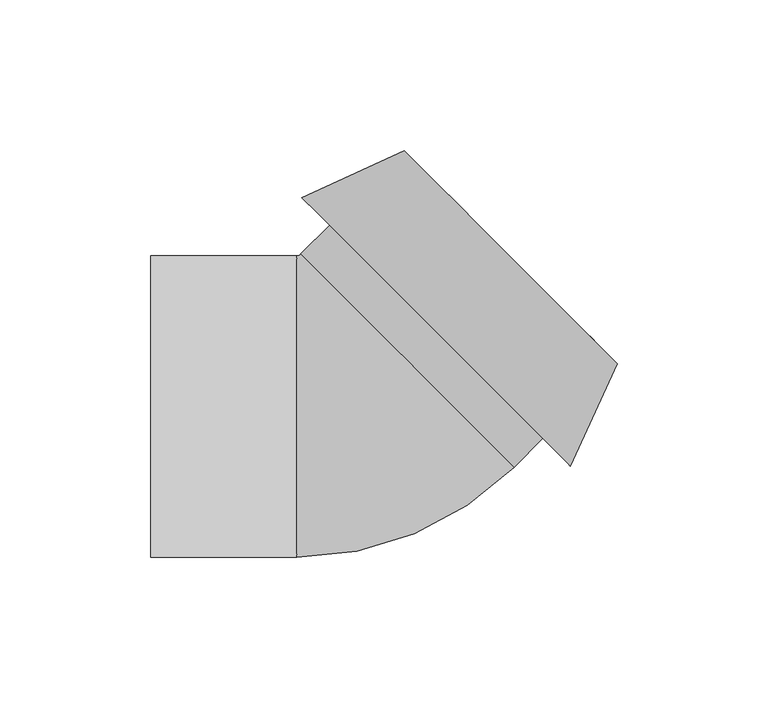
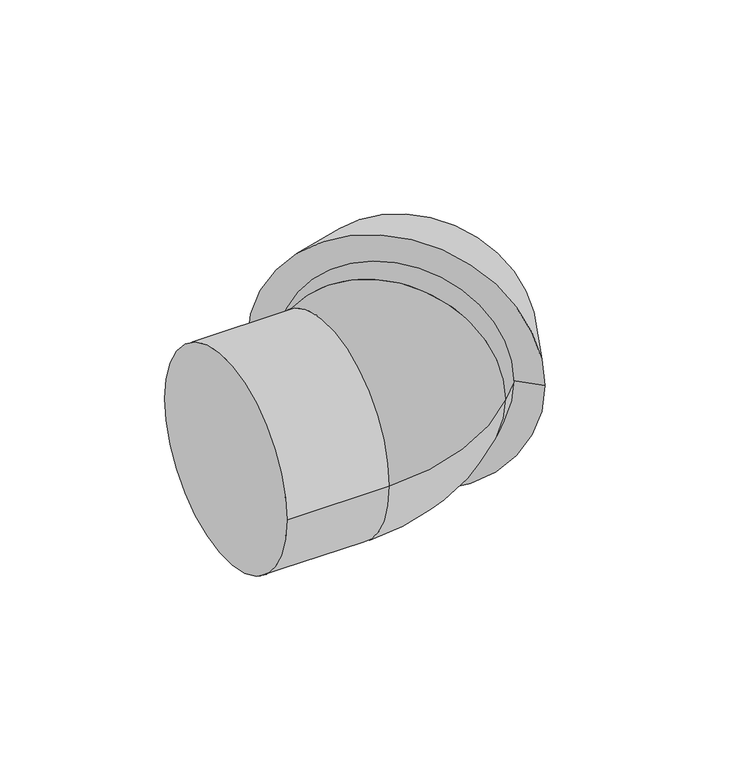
"""IFC4 building model written with IfcOpenShell, lengths in millimetres: duct fitting geometry, NLRS_57_DUF_Easysafe_bocht_M&G : DN100 / 45°."""

import ifcopenshell
import ifcopenshell.guid

model = None  # the IFC model being written
_history = None  # IfcOwnerHistory: only IFC2X3 demands one
_inside = {}  # id of a spatial element -> (the spatial element, [elements in it])
_under = {}  # id of a project, library or spatial element -> (it, [spatial elements below it])
_declared = {}  # id of a project -> (the project, [libraries it declares])
_typed = {}  # id of a type object -> (the type object, [elements of that type])
_made_of = {}  # id of a material, layer set ... -> (it, [elements and type objects made of it])


def new_model(schema):
    """Start an empty IFC model of exactly this schema.

    Asked for "IFC4X3", IfcOpenShell would pick the latest addendum, in which some entities
    have other attributes; the version numbers below select the first issue.
    IFC2X3 requires an IfcOwnerHistory on every rooted entity: one is made here for all.
    """
    global model, _history
    if schema == "IFC4X3":
        model = ifcopenshell.file(schema_version=(4, 3, 0, 0))
    else:
        model = ifcopenshell.file(schema=schema)
    _inside.clear()
    _under.clear()
    _declared.clear()
    _typed.clear()
    _made_of.clear()
    _history = None
    if model.schema == "IFC2X3":
        org = make("IfcOrganization", Name="unknown")
        user = make(
            "IfcPersonAndOrganization",
            ThePerson=make("IfcPerson", FamilyName="unknown"),
            TheOrganization=org,
        )
        app = make(
            "IfcApplication",
            ApplicationDeveloper=org,
            Version="unknown",
            ApplicationFullName="unknown",
            ApplicationIdentifier="unknown",
        )
        _history = make(
            "IfcOwnerHistory",
            OwningUser=user,
            OwningApplication=app,
            ChangeAction="ADDED",
            CreationDate=0,
        )
    return model


def make(cls, **values):
    """One entity of the class cls with the attributes given. An attribute that is None is left unset."""
    return model.create_entity(
        cls, **{name: value for name, value in values.items() if value is not None}
    )


def rooted(cls, **values):
    """An entity with a GlobalId (a new one), such as an element, a storey or a relation."""
    return make(cls, GlobalId=ifcopenshell.guid.new(), OwnerHistory=_history, **values)


def si_unit(unit_type, name, prefix=None):
    """IfcSIUnit, for example si_unit("LENGTHUNIT", "METRE", prefix="MILLI")."""
    return make("IfcSIUnit", UnitType=unit_type, Prefix=prefix, Name=name)


def assignment(units):
    """IfcUnitAssignment: the units of a project."""
    return None if units is None else make("IfcUnitAssignment", Units=units)


def point(xyz):
    """IfcCartesianPoint."""
    return None if xyz is None else make("IfcCartesianPoint", Coordinates=xyz)


def direction(xyz):
    """IfcDirection."""
    return None if xyz is None else make("IfcDirection", DirectionRatios=xyz)


def frame(location, z_axis=None, x_axis=None):
    """IfcAxis2Placement3D, a coordinate frame: its origin and axes. An axis left out is left unset."""
    return make(
        "IfcAxis2Placement3D",
        Location=point(location),
        Axis=direction(z_axis),
        RefDirection=direction(x_axis),
    )


def origin():
    """The frame at (0, 0, 0) with its axes left unset."""
    return frame((0.0, 0.0, 0.0))


def place(relative_to, where):
    """IfcLocalPlacement: puts the frame where relative to a parent placement (None: the world)."""
    return make(
        "IfcLocalPlacement", PlacementRelTo=relative_to, RelativePlacement=where
    )


def context(
    kind, dimensions, precision=None, world=None, true_north=None, identifier=None
):
    """IfcGeometricRepresentationContext, for example the 3D "Model" context."""
    return make(
        "IfcGeometricRepresentationContext",
        ContextIdentifier=identifier,
        ContextType=kind,
        CoordinateSpaceDimension=dimensions,
        Precision=precision,
        WorldCoordinateSystem=world,
        TrueNorth=true_north,
    )


def project(units=None, contexts=None):
    """IfcProject with its units and contexts."""
    return rooted(
        "IfcProject",
        Name="project",
        RepresentationContexts=contexts,
        UnitsInContext=assignment(units),
    )


def spatial(cls, under=None, at=None, **own):
    """A site, building, storey or space (cls), placed at a placement, below another one or the project."""
    s = rooted(cls, ObjectPlacement=at, **own)
    if under is not None:
        _under.setdefault(under.id(), (under, []))[1].append(s)
    return s


def polyline(points):
    """IfcPolyline through the points."""
    return make("IfcPolyline", Points=[point(p) for p in points])


def circle_curve(where, radius):
    """IfcCircle in the frame where."""
    return make("IfcCircle", Position=where, Radius=radius)


def ellipse_curve(where, semi_axis1, semi_axis2):
    """IfcEllipse in the frame where."""
    return make(
        "IfcEllipse", Position=where, SemiAxis1=semi_axis1, SemiAxis2=semi_axis2
    )


def trimmed(basis, trim1, trim2, sense, master):
    """IfcTrimmedCurve: the piece of a basis curve between two trims."""
    return make(
        "IfcTrimmedCurve",
        BasisCurve=basis,
        Trim1=trim1,
        Trim2=trim2,
        SenseAgreement=sense,
        MasterRepresentation=master,
    )


def shape(context_of_items, identifier, shape_type, items):
    """IfcShapeRepresentation: the items that make up one representation, for example the "Body"."""
    return make(
        "IfcShapeRepresentation",
        ContextOfItems=context_of_items,
        RepresentationIdentifier=identifier,
        RepresentationType=shape_type,
        Items=items,
    )


def source(mapping_origin, context_of_items, identifier, shape_type, items):
    """IfcRepresentationMap: a shape defined once, which mapped items show again and again."""
    return make(
        "IfcRepresentationMap",
        MappingOrigin=mapping_origin,
        MappedRepresentation=shape(context_of_items, identifier, shape_type, items),
    )


def transform(
    local_origin,
    x_axis=None,
    y_axis=None,
    z_axis=None,
    scale=None,
    scale2=None,
    scale3=None,
    uniform=True,
):
    """IfcCartesianTransformationOperator3D, or its non-uniform kind. x_axis, y_axis, z_axis: its Axis1, 2, 3."""
    if uniform:
        return make(
            "IfcCartesianTransformationOperator3D",
            Axis1=direction(x_axis),
            Axis2=direction(y_axis),
            LocalOrigin=point(local_origin),
            Scale=scale,
            Axis3=direction(z_axis),
        )
    return make(
        "IfcCartesianTransformationOperator3DnonUniform",
        Axis1=direction(x_axis),
        Axis2=direction(y_axis),
        LocalOrigin=point(local_origin),
        Scale=scale,
        Axis3=direction(z_axis),
        Scale2=scale2,
        Scale3=scale3,
    )


def mapped(mapping_source, mapping_target):
    """IfcMappedItem: shows the shape of a source again, moved by a transform."""
    return make(
        "IfcMappedItem", MappingSource=mapping_source, MappingTarget=mapping_target
    )


def made_of(thing, what):
    """Note that an element or type object is made of a material, layer set ...; save() writes the relation."""
    if what is not None:
        _made_of.setdefault(what.id(), (what, []))[1].append(thing)
    return thing


def element(
    cls,
    number,
    at=None,
    inside=None,
    cuts=None,
    type_object=None,
    material=None,
    context=None,
    identifier="Body",
    shape_type=None,
    held_by="IfcProductDefinitionShape",
    body=None,
    shapes=None,
    **own,
):
    """One element of the class cls, such as IfcWall. Its Tag is "e" and its number.

    at: its placement. inside: the storey or other place that contains it. cuts: it is an
    opening in that element (IfcRelVoidsElement). A single representation is given by context,
    identifier, shape_type and body (its items); several are given by shapes. held_by: the class
    of the entity that holds the representations. save() writes the other relations.
    """
    e = rooted(cls, Tag="e%d" % number, ObjectPlacement=at, **own)
    if body is not None:
        shapes = [shape(context, identifier, shape_type, body)]
    if shapes is not None:
        e.Representation = make(held_by, Representations=shapes)
    if inside is not None:
        _inside.setdefault(inside.id(), (inside, []))[1].append(e)
    if cuts is not None:
        rooted(
            "IfcRelVoidsElement", RelatingBuildingElement=cuts, RelatedOpeningElement=e
        )
    if type_object is not None:
        _typed.setdefault(type_object.id(), (type_object, []))[1].append(e)
    return made_of(e, material)


def aggregate(whole, parts):
    """IfcRelAggregates: a whole, such as a stair, and the parts it consists of."""
    return rooted("IfcRelAggregates", RelatingObject=whole, RelatedObjects=parts)


def save(model, path):
    """Write the relations noted so far, then the file.

    IfcRelAggregates (storeys below a building ...), IfcRelContainedInSpatialStructure (elements
    in a storey), IfcRelDefinesByType, IfcRelAssociatesMaterial and IfcRelDeclares: one each for
    every whole, place, type object, material and project.
    """
    for whole, parts in _under.values():
        aggregate(whole, parts)
    for where, things in _inside.values():
        rooted(
            "IfcRelContainedInSpatialStructure",
            RelatedElements=things,
            RelatingStructure=where,
        )
    for kind, things in _typed.values():
        rooted("IfcRelDefinesByType", RelatedObjects=things, RelatingType=kind)
    for what, things in _made_of.values():
        rooted("IfcRelAssociatesMaterial", RelatedObjects=things, RelatingMaterial=what)
    for by, libraries in _declared.values():
        rooted("IfcRelDeclares", RelatingContext=by, RelatedDefinitions=libraries)
    model.write(path)


def plane_surface(at):
    """IfcPlane: the flat surface through the origin of the frame at, square to its z axis."""
    return make("IfcPlane", Position=at)


def cylinder_surface(at, radius):
    """IfcCylindricalSurface: all points at the distance radius from the z axis of the frame at."""
    return make("IfcCylindricalSurface", Position=at, Radius=radius)


def revolved_surface(curve, axis_point, axis_direction):
    """IfcSurfaceOfRevolution: the curve turned about the line through axis_point along axis_direction."""
    return make(
        "IfcSurfaceOfRevolution",
        SweptCurve=make("IfcArbitraryOpenProfileDef", ProfileType="CURVE", Curve=curve),
        AxisPosition=make("IfcAxis1Placement", Location=point(axis_point), Axis=direction(axis_direction)),
    )


def advanced_brep(points, edges, surfaces, faces):
    """IfcAdvancedBrep: a solid bounded by faces that lie on surfaces and meet in shared edges.

    An edge is (start, end): straight between two places in points (the first is 0);
    or (start, end, curve); or (start, end, curve, False) where it runs against its curve.
    A face is (place in surfaces, loops), or (place, loops, False) where it looks against
    its surface's normal. A loop lists edges by number (the first is 1), with a minus sign
    where the edge is run from its end to its start. The first loop is the outer one.
    """
    corners = [point(p) for p in points]
    vertices = [make("IfcVertexPoint", VertexGeometry=c) for c in corners]
    made = []
    for start, end, *more in edges:
        made.append(
            make(
                "IfcEdgeCurve",
                EdgeStart=vertices[start],
                EdgeEnd=vertices[end],
                EdgeGeometry=more[0] if more else make("IfcPolyline", Points=[corners[start], corners[end]]),
                SameSense=more[1] if len(more) > 1 else True,
            )
        )
    hull = []
    for where, loops, *sense in faces:
        bounds = []
        for j, loop in enumerate(loops):
            ring = [make("IfcOrientedEdge", EdgeElement=made[abs(k) - 1], Orientation=k > 0) for k in loop]
            bounds.append(
                make(
                    "IfcFaceOuterBound" if j == 0 else "IfcFaceBound",
                    Bound=make("IfcEdgeLoop", EdgeList=ring),
                    Orientation=True,
                )
            )
        hull.append(make("IfcAdvancedFace", Bounds=bounds, FaceSurface=surfaces[where], SameSense=sense[0] if sense else True))
    return make("IfcAdvancedBrep", Outer=make("IfcClosedShell", CfsFaces=hull))


def duct_fitting_0b1f5d79(model_context):
    return source(origin(), model_context, "Body", "AdvancedBrep", [
        advanced_brep(
        [(56.5685425, -7.0710678, 0.0), (-7.0710678, 56.5685425, 0.0), (-19.7989899, 69.2964646, 0.0), (69.2964646, -19.7989899, 0.0), (14.1421356, 84.8528137, 0.0), (84.8528137, 14.1421356, 0.0), (81.3172798, 17.6776695, 0.0), (17.6776695, 81.3172798, 0.0)],
        [
            (0, 1, circle_curve(frame((24.7487373, 24.7487373, 0.0), z_axis=(0.7071067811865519, 0.7071067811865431, 0.0), x_axis=(-0.7071067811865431, 0.7071067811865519, 0.0)), 45.0)),
            (1, 2),
            (2, 3, circle_curve(frame((24.7487373, 24.7487373, 0.0), z_axis=(-0.7071067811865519, -0.7071067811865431, 0.0), x_axis=(-0.7071067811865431, 0.7071067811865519, 0.0)), 63.0)),
            (3, 0),
            (1, 0, circle_curve(frame((24.7487373, 24.7487373, 0.0), z_axis=(0.7071067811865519, 0.7071067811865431, 0.0), x_axis=(-0.7071067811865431, 0.7071067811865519, 0.0)), 45.0)),
            (3, 2, circle_curve(frame((24.7487373, 24.7487373, 0.0), z_axis=(-0.7071067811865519, -0.7071067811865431, 0.0), x_axis=(-0.7071067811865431, 0.7071067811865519, 0.0)), 63.0)),
            (2, 4, circle_curve(frame((80.1387104, -103.94457, 0.0), z_axis=(0.0, 0.0, -1.0), x_axis=(0.7071067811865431, -0.7071067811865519, 0.0)), 200.0)),
            (4, 5, circle_curve(frame((49.4974747, 49.4974747, 0.0), z_axis=(-0.7071067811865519, -0.7071067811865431, 0.0), x_axis=(-0.7071067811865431, 0.7071067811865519, 0.0)), 50.0)),
            (5, 3, circle_curve(frame((-103.94457, 80.1387104, 0.0), z_axis=(0.0, 0.0, -1.0), x_axis=(-0.7071067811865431, 0.7071067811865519, 0.0)), 200.0)),
            (5, 4, circle_curve(frame((49.4974747, 49.4974747, 0.0), z_axis=(-0.7071067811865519, -0.7071067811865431, 0.0), x_axis=(-0.7071067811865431, 0.7071067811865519, 0.0)), 50.0)),
            (6, 7, circle_curve(frame((49.4974747, 49.4974747, 0.0), z_axis=(0.7071067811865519, 0.7071067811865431, 0.0), x_axis=(-0.7071067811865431, 0.7071067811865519, 0.0)), 45.0)),
            (7, 1),
            (0, 6),
            (7, 6, circle_curve(frame((49.4974747, 49.4974747, 0.0), z_axis=(0.7071067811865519, 0.7071067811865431, 0.0), x_axis=(-0.7071067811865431, 0.7071067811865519, 0.0)), 45.0)),
            (4, 7),
            (6, 5),
        ],
        [
            plane_surface(frame((24.7487373, 24.7487373, 0.0), z_axis=(-0.7071067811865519, -0.7071067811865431, 0.0), x_axis=(-0.7071067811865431, 0.7071067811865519, 0.0))),
            revolved_surface(trimmed(ellipse_curve(frame((80.1387104, -103.94457, 0.0), z_axis=(0.0, 0.0, 1.0), x_axis=(0.7071067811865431, -0.7071067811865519, 0.0)), 200.0, 200.0), [point((14.1421356, 84.8528137, 0.0))], [point((-19.7989899, 69.2964646, 0.0))], True, "CARTESIAN"), (22.4182073, 22.4182073, 0.0), (-0.7071067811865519, -0.7071067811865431, 0.0)),
            revolved_surface(polyline([(-7.071067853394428, 56.56854245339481, 0.0), (17.67766954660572, 81.31727985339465, 0.0)]), (22.4182073, 22.4182073, 0.0), (-0.7071067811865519, -0.7071067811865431, 0.0)),
            plane_surface(frame((49.4974747, 49.4974747, 0.0), z_axis=(0.7071067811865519, 0.7071067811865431, 0.0), x_axis=(-0.7071067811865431, 0.7071067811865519, 0.0))),
        ],
        [
            (0, [[1, 2, 3, 4]]),
            (0, [[5, -4, 6, -2]]),
            (1, [[-3, 7, 8, 9]]),
            (1, [[-6, -9, 10, -7]]),
            (2, [[11, 12, -1, 13]]),
            (2, [[14, -13, -5, -12]]),
            (3, [[-8, 15, -11, 16]]),
            (3, [[-10, -16, -14, -15]]),
        ],
    ),
        advanced_brep(
        [(-10.6066017, 60.1040764, 0.0), (60.1040764, -10.6066017, 0.0), (-20.1248917, 50.5857864, 0.0), (50.5857864, -20.1248917, 0.0), (-21.5391052, -50.0, 0.0), (-21.5391052, 50.0, 0.0), (-70.0, 50.0, 0.0), (-70.0, -50.0, 0.0)],
        [
            (0, 1, circle_curve(frame((24.7487373, 24.7487373, 0.0), z_axis=(0.7071067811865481, 0.7071067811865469, 0.0), x_axis=(0.7071067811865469, -0.7071067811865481, 0.0)), 50.0)),
            (1, 0, circle_curve(frame((24.7487373, 24.7487373, 0.0), z_axis=(0.7071067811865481, 0.7071067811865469, 0.0), x_axis=(0.7071067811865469, -0.7071067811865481, 0.0)), 50.0)),
            (0, 2),
            (2, 3, circle_curve(frame((15.2304474, 15.2304474, 0.0), z_axis=(0.7071067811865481, 0.7071067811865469, 0.0), x_axis=(0.7071067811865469, -0.7071067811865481, 0.0)), 50.0)),
            (3, 1),
            (3, 2, circle_curve(frame((15.2304474, 15.2304474, 0.0), z_axis=(0.7071067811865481, 0.7071067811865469, 0.0), x_axis=(0.7071067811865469, -0.7071067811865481, 0.0)), 50.0)),
            (4, 3, circle_curve(frame((-21.5391052, 52.0, 0.0), z_axis=(0.0, 0.0, 1.0), x_axis=(0.707106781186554, -0.707106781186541, 0.0)), 102.0)),
            (2, 5, circle_curve(frame((-21.5391052, 52.0, 0.0), z_axis=(0.0, 0.0, -1.0), x_axis=(0.707106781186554, -0.707106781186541, 0.0)), 2.0)),
            (5, 4, circle_curve(frame((-21.5391052, 0.0, 0.0), z_axis=(1.0, 0.0, 0.0), x_axis=(0.0, -1.0, 0.0)), 50.0)),
            (4, 5, circle_curve(frame((-21.5391052, 0.0, 0.0), z_axis=(1.0, 0.0, 0.0), x_axis=(0.0, -1.0, 0.0)), 50.0)),
            (6, 7, circle_curve(frame((-70.0, 0.0, 0.0), z_axis=(-1.0, 0.0, 0.0), x_axis=(0.0, -1.0, 0.0)), 50.0)),
            (7, 6, circle_curve(frame((-70.0, 0.0, 0.0), z_axis=(-1.0, 0.0, 0.0), x_axis=(0.0, -1.0, 0.0)), 50.0)),
            (5, 6),
            (7, 4),
        ],
        [
            plane_surface(frame((24.7487373, 24.7487373, 0.0), z_axis=(0.7071067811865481, 0.7071067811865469, 0.0), x_axis=(0.0, 0.0, 1.0))),
            cylinder_surface(frame((24.7487373, 24.7487373, 0.0), z_axis=(0.7071067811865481, 0.7071067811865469, 0.0), x_axis=(0.7071067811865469, -0.7071067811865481, 0.0)), 50.0),
            revolved_surface(trimmed(ellipse_curve(frame((15.2304474, 15.2304474, 0.0), z_axis=(0.707106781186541, 0.707106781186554, 0.0), x_axis=(0.707106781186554, -0.707106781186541, 0.0)), 50.0, 50.0), [point((-20.1248917, 50.5857864, 0.0))], [point((50.5857864, -20.1248917, 0.0))], True, "CARTESIAN"), (-21.5391052, 52.0, 0.0), (0.0, 0.0, -1.0)),
            revolved_surface(trimmed(ellipse_curve(frame((15.2304474, 15.2304474, 0.0), z_axis=(0.707106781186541, 0.707106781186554, 0.0), x_axis=(0.707106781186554, -0.707106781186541, 0.0)), 50.0, 50.0), [point((50.5857864, -20.1248917, 0.0))], [point((-20.1248917, 50.5857864, 0.0))], True, "CARTESIAN"), (-21.5391052, 52.0, 0.0), (0.0, 0.0, -1.0)),
            plane_surface(frame((-70.0, 0.0, 0.0), z_axis=(-1.0, 0.0, 0.0), x_axis=(0.0, 0.0, 1.0))),
            cylinder_surface(frame((-21.5391052, 0.0, 0.0), z_axis=(1.0, 0.0, 0.0), x_axis=(0.0, -1.0, 0.0)), 50.0),
        ],
        [
            (0, [[1, 2]]),
            (1, [[-1, 3, 4, 5]]),
            (1, [[-2, -5, 6, -3]]),
            (2, [[7, -4, 8, 9]]),
            (3, [[-8, -6, -7, 10]]),
            (4, [[11, 12]]),
            (5, [[-9, 13, -12, 14]]),
            (5, [[-10, -14, -11, -13]]),
        ],
    ),
    ])


if __name__ == "__main__":
    model = new_model("IFC4")
    model_context = context("Model", 3, world=origin())
    ifc_project = project(units=[si_unit("LENGTHUNIT", "METRE", prefix="MILLI")], contexts=[model_context])
    site = spatial("IfcSite", under=ifc_project)
    building = spatial("IfcBuilding", under=site)
    placement = place(None, origin())
    duct_fitting_shape = duct_fitting_0b1f5d79(model_context)
    element("IfcDuctFitting", 1, ObjectType="NLRS_57_DUF_Easysafe_bocht_M&G : DN100 / 45°", at=placement, inside=building, context=model_context, shape_type="MappedRepresentation", body=[
        mapped(duct_fitting_shape, transform((0.0, 0.0, 0.0), x_axis=(1.0, 0.0, 0.0), y_axis=(0.0, 1.0, 0.0), z_axis=(0.0, 0.0, 1.0))),
    ])
    save(model, "model.ifc")
